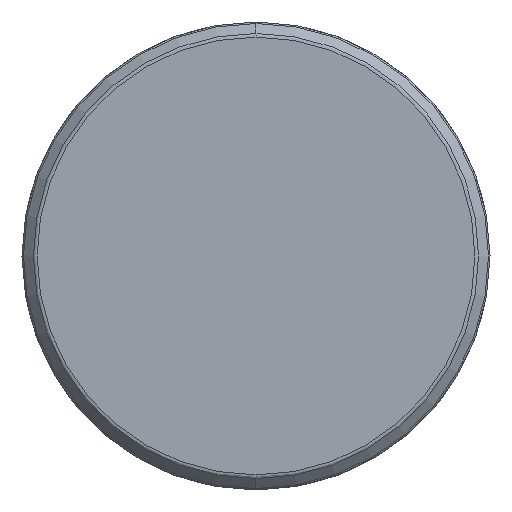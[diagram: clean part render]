
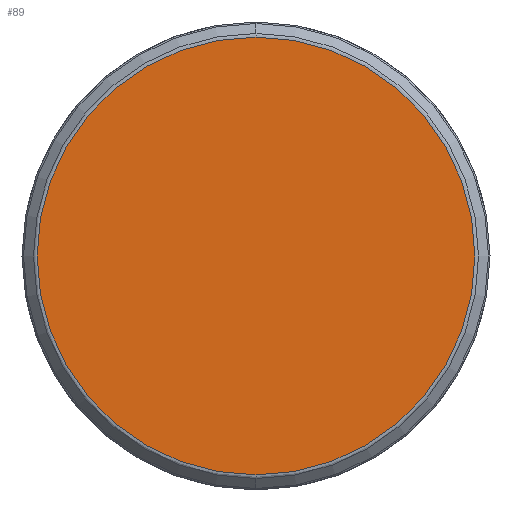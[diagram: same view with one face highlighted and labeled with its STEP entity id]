
A CAD part, front view. The second image highlights one B-rep face of the part: STEP entity #89.
In plain terms, the highlighted free-form (B-spline) face has degree [1, 1] with [2, 2] control points.
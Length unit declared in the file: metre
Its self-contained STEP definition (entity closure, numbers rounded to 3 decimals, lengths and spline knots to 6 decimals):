
#89 = ADVANCED_FACE( '', ( #123 ), #124, .F. );
#123 = FACE_OUTER_BOUND( '', #324, .T. );
#124 = B_SPLINE_SURFACE_WITH_KNOTS( '', 1, 1, ( ( #325, #326 ), ( #327, #328 ) ), .UNSPECIFIED., .F., .F., .F., ( 2, 2 ), ( 2, 2 ), ( 0., 1. ), ( 0., 1. ), .UNSPECIFIED. );
#324 = EDGE_LOOP( '', ( #475, #476 ) );
#325 = CARTESIAN_POINT( '', ( -0.008518, 0., -0.008518 ) );
#326 = CARTESIAN_POINT( '', ( 0.008518, 0., -0.008518 ) );
#327 = CARTESIAN_POINT( '', ( -0.008518, 0., 0.008518 ) );
#328 = CARTESIAN_POINT( '', ( 0.008518, 0., 0.008518 ) );
#475 = ORIENTED_EDGE( '', *, *, #545, .F. );
#476 = ORIENTED_EDGE( '', *, *, #547, .F. );
#545 = EDGE_CURVE( '', #596, #598, #599, .T. );
#547 = EDGE_CURVE( '', #598, #596, #601, .T. );
#596 = VERTEX_POINT( '', #718 );
#598 = VERTEX_POINT( '', #730 );
#599 = CIRCLE( '', #731, 0.008417 );
#601 = CIRCLE( '', #743, 0.008417 );
#718 = CARTESIAN_POINT( '', ( 0., 0., 0.008417 ) );
#730 = CARTESIAN_POINT( '', ( 0., 0., -0.008417 ) );
#731 = AXIS2_PLACEMENT_3D( '', #826, #827, #828 );
#743 = AXIS2_PLACEMENT_3D( '', #829, #830, #831 );
#826 = CARTESIAN_POINT( '', ( 0., 0., 0. ) );
#827 = DIRECTION( '', ( 0., 1., 0. ) );
#828 = DIRECTION( '', ( -1., 0., 0. ) );
#829 = CARTESIAN_POINT( '', ( 0., 0., 0. ) );
#830 = DIRECTION( '', ( 0., 1., 0. ) );
#831 = DIRECTION( '', ( -1., 0., 0. ) );
